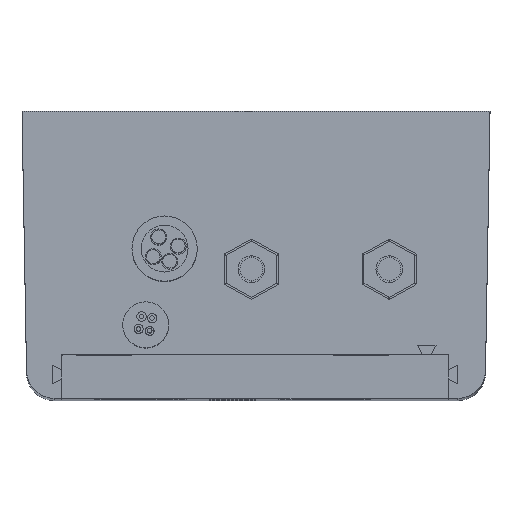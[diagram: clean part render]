
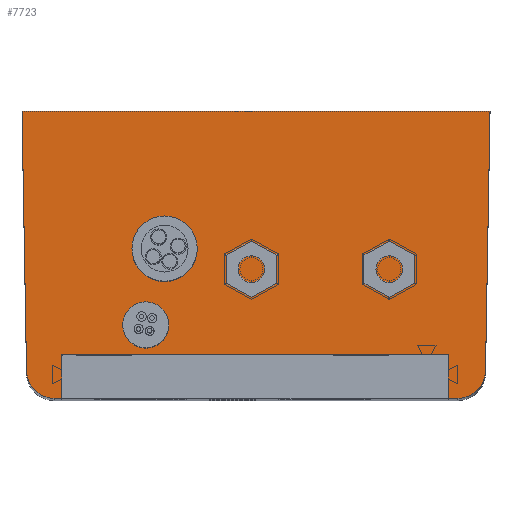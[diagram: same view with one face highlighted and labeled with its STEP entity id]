
A CAD part, top view. The second image highlights one B-rep face of the part: STEP entity #7723.
In plain terms, the highlighted planar face has unit normal (0, 0, 1).
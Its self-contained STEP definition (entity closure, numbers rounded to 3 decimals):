
#112 = LINE ( 'NONE', #7308, #10117 ) ;
#237 = DIRECTION ( 'NONE',  ( -1., 0., 0. ) ) ;
#528 = LINE ( 'NONE', #8466, #8659 ) ;
#548 = ORIENTED_EDGE ( 'NONE', *, *, #4259, .F. ) ;
#661 = LINE ( 'NONE', #6516, #5445 ) ;
#829 = CIRCLE ( 'NONE', #1443, 3. ) ;
#911 = LINE ( 'NONE', #2922, #6266 ) ;
#1044 = CARTESIAN_POINT ( 'NONE',  ( -24.56, -0.429, 0. ) ) ;
#1056 = DIRECTION ( 'NONE',  ( 1., 0., 0. ) ) ;
#1139 = AXIS2_PLACEMENT_3D ( 'NONE', #6445, #2815, #1056 ) ;
#1150 = VERTEX_POINT ( 'NONE', #12039 ) ;
#1443 = AXIS2_PLACEMENT_3D ( 'NONE', #10729, #7959, #2330 ) ;
#1704 = CARTESIAN_POINT ( 'NONE',  ( 21.473, -7.469, 0. ) ) ;
#2002 = CARTESIAN_POINT ( 'NONE',  ( 22.532, -9.219, 0. ) ) ;
#2222 = LINE ( 'NONE', #7883, #5419 ) ;
#2330 = DIRECTION ( 'NONE',  ( 1., 0., 0. ) ) ;
#2472 = CARTESIAN_POINT ( 'NONE',  ( -24.406, -9.271, 0. ) ) ;
#2536 = ORIENTED_EDGE ( 'NONE', *, *, #7405, .T. ) ;
#2589 = EDGE_CURVE ( 'NONE', #7471, #6675, #911, .T. ) ;
#2804 = DIRECTION ( 'NONE',  ( 0., 0., 1. ) ) ;
#2815 = DIRECTION ( 'NONE',  ( 0., 0., 1. ) ) ;
#2834 = CARTESIAN_POINT ( 'NONE',  ( 21.473, -12.219, 0. ) ) ;
#2882 = DIRECTION ( 'NONE',  ( 0., -1., 0. ) ) ;
#2922 = CARTESIAN_POINT ( 'NONE',  ( -24.437, 19.031, 0. ) ) ;
#3429 = DIRECTION ( 'NONE',  ( 1., 0., 0. ) ) ;
#3489 = VERTEX_POINT ( 'NONE', #1704 ) ;
#3645 = VERTEX_POINT ( 'NONE', #6493 ) ;
#3748 = ORIENTED_EDGE ( 'NONE', *, *, #7621, .T. ) ;
#3829 = CARTESIAN_POINT ( 'NONE',  ( -24.9, 19.031, 0. ) ) ;
#4140 = VERTEX_POINT ( 'NONE', #8833 ) ;
#4212 = CARTESIAN_POINT ( 'NONE',  ( 26.025, 19.031, 0. ) ) ;
#4259 = EDGE_CURVE ( 'NONE', #3489, #3645, #5970, .T. ) ;
#4377 = VECTOR ( 'NONE', #8472, 1000. ) ;
#4430 = FACE_OUTER_BOUND ( 'NONE', #10068, .T. ) ;
#4676 = DIRECTION ( 'NONE',  ( 1., 0., 0. ) ) ;
#4770 = LINE ( 'NONE', #1044, #10006 ) ;
#5314 = CARTESIAN_POINT ( 'NONE',  ( 22.532, -12.219, 0. ) ) ;
#5376 = VECTOR ( 'NONE', #9954, 1000. ) ;
#5398 = AXIS2_PLACEMENT_3D ( 'NONE', #2002, #2804, #4676 ) ;
#5419 = VECTOR ( 'NONE', #3429, 1000. ) ;
#5445 = VECTOR ( 'NONE', #7452, 1000. ) ;
#5581 = PLANE ( 'NONE',  #1139 ) ;
#5608 = EDGE_CURVE ( 'NONE', #6675, #8547, #4770, .T. ) ;
#5781 = ORIENTED_EDGE ( 'NONE', *, *, #11208, .T. ) ;
#5970 = LINE ( 'NONE', #8084, #5376 ) ;
#6229 = CARTESIAN_POINT ( 'NONE',  ( 25.531, -9.271, 0. ) ) ;
#6266 = VECTOR ( 'NONE', #237, 1000. ) ;
#6410 = LINE ( 'NONE', #6762, #4377 ) ;
#6445 = CARTESIAN_POINT ( 'NONE',  ( 0., 0., 0. ) ) ;
#6493 = CARTESIAN_POINT ( 'NONE',  ( -20.587, -7.469, 0. ) ) ;
#6516 = CARTESIAN_POINT ( 'NONE',  ( 21.473, -12.219, 0. ) ) ;
#6653 = ORIENTED_EDGE ( 'NONE', *, *, #5608, .T. ) ;
#6675 = VERTEX_POINT ( 'NONE', #3829 ) ;
#6762 = CARTESIAN_POINT ( 'NONE',  ( -24.437, -12.219, 0. ) ) ;
#7308 = CARTESIAN_POINT ( 'NONE',  ( 25.685, -0.448, 0. ) ) ;
#7405 = EDGE_CURVE ( 'NONE', #8547, #1150, #829, .T. ) ;
#7452 = DIRECTION ( 'NONE',  ( 0., 1., 0. ) ) ;
#7471 = VERTEX_POINT ( 'NONE', #4212 ) ;
#7621 = EDGE_CURVE ( 'NONE', #7970, #7471, #112, .T. ) ;
#7656 = DIRECTION ( 'NONE',  ( 0.017, -1., 0. ) ) ;
#7723 = ADVANCED_FACE ( 'NONE', ( #4430 ), #5581, .T. ) ;
#7883 = CARTESIAN_POINT ( 'NONE',  ( -24.437, -12.219, 0. ) ) ;
#7938 = ORIENTED_EDGE ( 'NONE', *, *, #2589, .T. ) ;
#7959 = DIRECTION ( 'NONE',  ( 0., 0., 1. ) ) ;
#7970 = VERTEX_POINT ( 'NONE', #6229 ) ;
#8084 = CARTESIAN_POINT ( 'NONE',  ( -20.587, -7.469, 0. ) ) ;
#8185 = CIRCLE ( 'NONE', #5398, 3. ) ;
#8191 = ORIENTED_EDGE ( 'NONE', *, *, #9400, .T. ) ;
#8226 = ORIENTED_EDGE ( 'NONE', *, *, #9045, .T. ) ;
#8254 = EDGE_CURVE ( 'NONE', #8783, #3489, #661, .T. ) ;
#8316 = EDGE_CURVE ( 'NONE', #3645, #4140, #528, .T. ) ;
#8466 = CARTESIAN_POINT ( 'NONE',  ( -20.587, -12.219, 0. ) ) ;
#8472 = DIRECTION ( 'NONE',  ( 1., 0., 0. ) ) ;
#8547 = VERTEX_POINT ( 'NONE', #2472 ) ;
#8659 = VECTOR ( 'NONE', #2882, 1000. ) ;
#8737 = ORIENTED_EDGE ( 'NONE', *, *, #8316, .F. ) ;
#8783 = VERTEX_POINT ( 'NONE', #2834 ) ;
#8833 = CARTESIAN_POINT ( 'NONE',  ( -20.587, -12.219, 0. ) ) ;
#9045 = EDGE_CURVE ( 'NONE', #1150, #4140, #2222, .T. ) ;
#9224 = DIRECTION ( 'NONE',  ( 0.017, 1., 0. ) ) ;
#9400 = EDGE_CURVE ( 'NONE', #9838, #7970, #8185, .T. ) ;
#9838 = VERTEX_POINT ( 'NONE', #5314 ) ;
#9954 = DIRECTION ( 'NONE',  ( -1., 0., 0. ) ) ;
#10006 = VECTOR ( 'NONE', #7656, 1000. ) ;
#10068 = EDGE_LOOP ( 'NONE', ( #5781, #8191, #3748, #7938, #6653, #2536, #8226, #8737, #548, #11905 ) ) ;
#10117 = VECTOR ( 'NONE', #9224, 1000. ) ;
#10729 = CARTESIAN_POINT ( 'NONE',  ( -21.406, -9.219, 0. ) ) ;
#11208 = EDGE_CURVE ( 'NONE', #8783, #9838, #6410, .T. ) ;
#11905 = ORIENTED_EDGE ( 'NONE', *, *, #8254, .F. ) ;
#12039 = CARTESIAN_POINT ( 'NONE',  ( -21.406, -12.219, 0. ) ) ;
